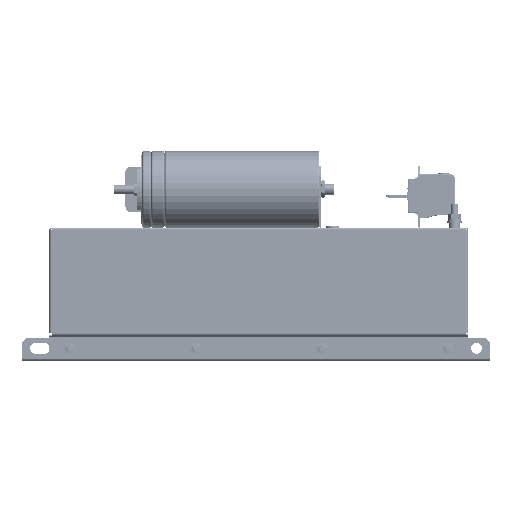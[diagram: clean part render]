
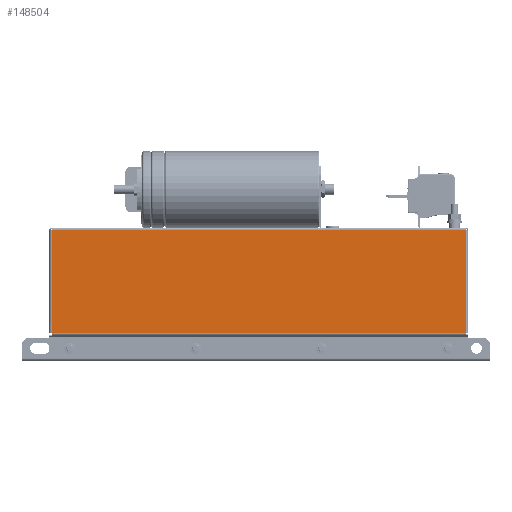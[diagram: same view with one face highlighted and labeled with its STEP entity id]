
A CAD part, left-side view. The second image highlights one B-rep face of the part: STEP entity #148504.
In plain terms, the highlighted planar face has unit normal (-1, 0, 0).
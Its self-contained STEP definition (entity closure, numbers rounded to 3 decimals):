
#9007=PLANE('',#161005);
#16516=FACE_OUTER_BOUND('',#25489,.T.);
#25489=EDGE_LOOP('',(#118463,#118464,#118465,#118466));
#36089=LINE('',#270618,#47730);
#36293=LINE('',#271148,#47934);
#36351=LINE('',#271688,#47992);
#36352=LINE('',#271689,#47993);
#47730=VECTOR('',#192855,10.);
#47934=VECTOR('',#193251,10.);
#47992=VECTOR('',#193391,10.);
#47993=VECTOR('',#193392,10.);
#65061=VERTEX_POINT('',#270611);
#65064=VERTEX_POINT('',#270616);
#65228=VERTEX_POINT('',#271136);
#65287=VERTEX_POINT('',#271687);
#83253=EDGE_CURVE('',#65061,#65064,#36089,.T.);
#83488=EDGE_CURVE('',#65064,#65228,#36293,.T.);
#83578=EDGE_CURVE('',#65061,#65287,#36351,.T.);
#83579=EDGE_CURVE('',#65287,#65228,#36352,.T.);
#118463=ORIENTED_EDGE('',*,*,#83578,.F.);
#118464=ORIENTED_EDGE('',*,*,#83253,.T.);
#118465=ORIENTED_EDGE('',*,*,#83488,.T.);
#118466=ORIENTED_EDGE('',*,*,#83579,.F.);
#148504=ADVANCED_FACE('',(#16516),#9007,.F.);
#161005=AXIS2_PLACEMENT_3D('',#271686,#193389,#193390);
#192855=DIRECTION('',(0.,1.,0.));
#193251=DIRECTION('',(0.,0.,-1.));
#193389=DIRECTION('center_axis',(1.,0.,0.));
#193390=DIRECTION('ref_axis',(0.,0.,
-1.));
#193391=DIRECTION('',(0.,0.,-1.));
#193392=DIRECTION('',(0.,1.,0.));
#270611=CARTESIAN_POINT('',(-140.,-233.2,145.7));
#270616=CARTESIAN_POINT('',(-140.,227.2,145.7));
#270618=CARTESIAN_POINT('',(-140.,229.5,145.7));
#271136=CARTESIAN_POINT('',(-140.,227.2,30.453));
#271148=CARTESIAN_POINT('',(-140.,227.2,81.6));
#271686=CARTESIAN_POINT('Origin',(-140.,-235.5,29.5));
#271687=CARTESIAN_POINT('',(-140.,-233.2,30.453));
#271688=CARTESIAN_POINT('',(-140.,-233.2,133.71));
#271689=CARTESIAN_POINT('',(-140.,-235.5,30.453));
